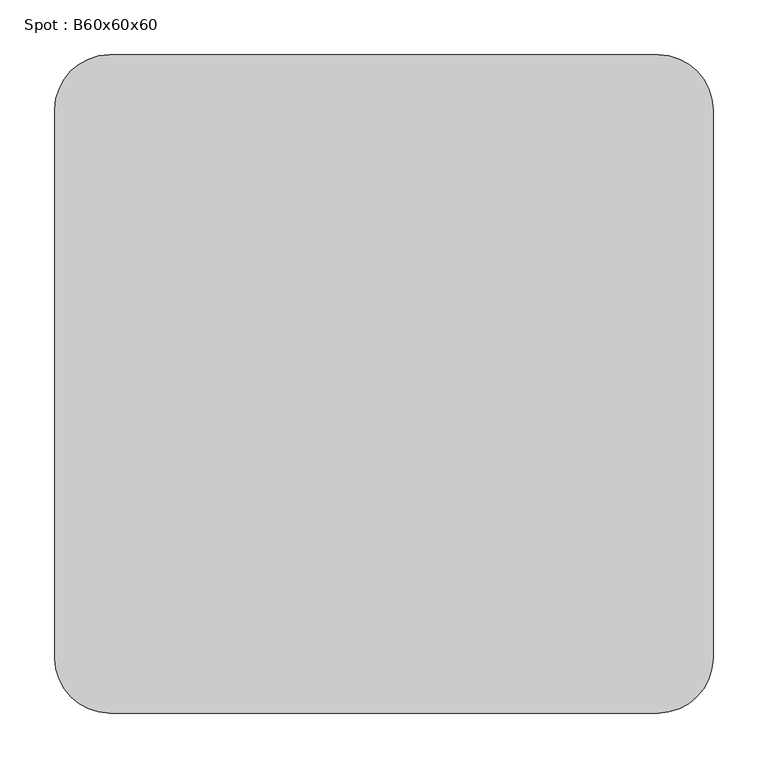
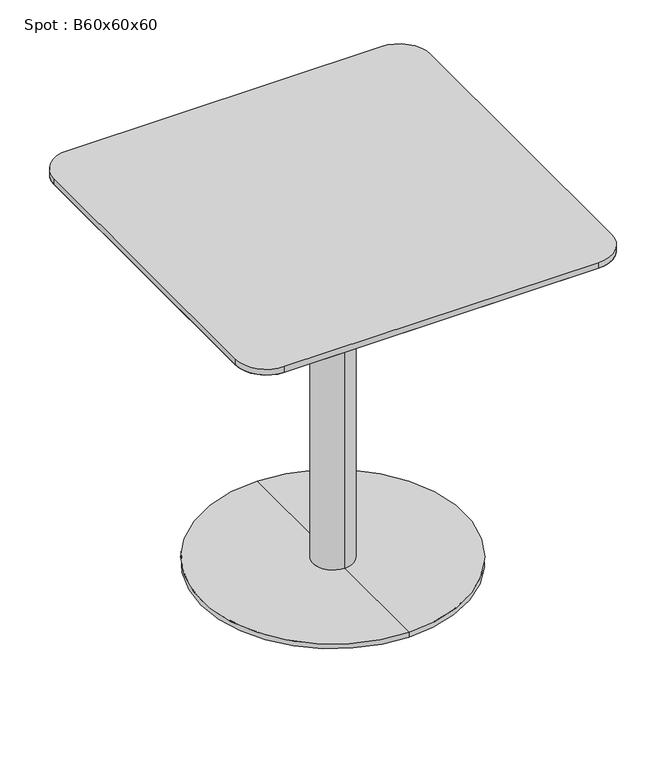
"""IFC4 building model written with IfcOpenShell, lengths in millimetres: furniture geometry, Spot : B60x60x60."""

from ifc_helpers import new_model, si_unit, point, frame, frame_2d, origin, place, context, project, spatial, polyline, circle_curve, trimmed, segment, composite_curve, outline, extrude, source, transform, mapped, element, save
from ifc_brep_helpers import plane_surface, cylinder_surface, revolved_surface, advanced_brep


def spot_b60x60x60_533987e2(model_context):
    return source(origin(), model_context, "Body", "SolidModel", [
        advanced_brep(
        [(-250.0, -250.0, 578.0), (-250.0, 250.0, 578.0), (250.0, 250.0, 578.0), (250.0, -250.0, 578.0), (-300.0, -250.0, 590.0), (-250.0, -300.0, 590.0), (250.0, -300.0, 590.0), (300.0, -250.0, 590.0), (300.0, 250.0, 590.0), (250.0, 300.0, 590.0), (-250.0, 300.0, 590.0), (-300.0, 250.0, 590.0)],
        [
            (0, 1),
            (1, 2),
            (2, 3),
            (3, 0),
            (4, 5, circle_curve(frame((-250.0, -250.0, 590.0), z_axis=(0.0, 0.0, 1.0), x_axis=(0.0, -1.0, 0.0)), 50.0)),
            (5, 6),
            (6, 7, circle_curve(frame((250.0, -250.0, 590.0), z_axis=(0.0, 0.0, 1.0), x_axis=(1.0, 0.0, 0.0)), 50.0)),
            (7, 8),
            (8, 9, circle_curve(frame((250.0, 250.0, 590.0), z_axis=(0.0, 0.0, 1.0), x_axis=(0.0, 1.0, 0.0)), 50.0)),
            (9, 10),
            (10, 11, circle_curve(frame((-250.0, 250.0, 590.0), z_axis=(0.0, 0.0, 1.0), x_axis=(-1.0, 0.0, 0.0)), 50.0)),
            (11, 4),
            (4, 0),
            (0, 5),
            (3, 6),
            (3, 7),
            (2, 8),
            (2, 9),
            (1, 10),
            (1, 11),
        ],
        [
            plane_surface(frame((0.0, 0.0, 578.0), z_axis=(0.0, 0.0, -1.0), x_axis=(-1.0, 0.0, 0.0))),
            plane_surface(frame((0.0, 0.0, 590.0), z_axis=(0.0, 0.0, 1.0), x_axis=(-1.0, 0.0, 0.0))),
            revolved_surface(polyline([(-250.0, -250.0, 578.0), (-250.0, -300.0, 590.0)]), (-250.0, -250.0, 578.0), (0.0, 0.0, 1.0)),
            plane_surface(frame((0.0, -300.0, 590.0), z_axis=(0.0, -0.23337295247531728, -0.9723873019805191), x_axis=(-1.0, 0.0, 0.0))),
            revolved_surface(polyline([(250.0, -250.0, 578.0), (300.0, -250.0, 590.0)]), (250.0, -250.0, 578.0), (0.0, 0.0, 1.0)),
            plane_surface(frame((300.0, 0.0, 590.0), z_axis=(0.23337295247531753, 0.0, -0.9723873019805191), x_axis=(0.0, -1.0, 0.0))),
            revolved_surface(polyline([(250.0, 250.0, 578.0), (250.0, 300.0, 590.0)]), (250.0, 250.0, 578.0), (0.0, 0.0, 1.0)),
            plane_surface(frame((0.0, 300.0, 590.0), z_axis=(0.0, 0.23337295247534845, -0.9723873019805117), x_axis=(1.0, 0.0, 0.0))),
            revolved_surface(polyline([(-250.0, 250.0, 578.0), (-300.0, 250.0, 590.0)]), (-250.0, 250.0, 578.0), (0.0, 0.0, 1.0)),
            plane_surface(frame((-300.0, 0.0, 590.0), z_axis=(-0.233372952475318, 0.0, -0.972387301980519), x_axis=(0.0, 1.0, 0.0))),
        ],
        [
            (0, [[1, 2, 3, 4]]),
            (1, [[5, 6, 7, 8, 9, 10, 11, 12]]),
            (2, [[-5, 13, 14]]),
            (3, [[-6, -14, -4, 15]]),
            (4, [[-7, -15, 16]]),
            (5, [[-8, -16, -3, 17]]),
            (6, [[-9, -17, 18]]),
            (7, [[-10, -18, -2, 19]]),
            (8, [[-11, -19, 20]]),
            (9, [[-12, -20, -1, -13]]),
        ],
    ),
        extrude(outline(composite_curve([segment(trimmed(circle_curve(frame_2d((250.0, 250.0)), 50.0), [point((250.0, 300.0))], [point((300.0, 250.0))], False, "CARTESIAN"), True, "CONTINUOUS"), segment(polyline([(300.0, 250.0), (300.0, -250.0)]), True, "CONTINUOUS"), segment(trimmed(circle_curve(frame_2d((250.0, -250.0)), 50.0), [point((300.0, -250.0))], [point((250.0, -300.0))], False, "CARTESIAN"), True, "CONTINUOUS"), segment(polyline([(250.0, -300.0), (-250.0, -300.0)]), True, "CONTINUOUS"), segment(trimmed(circle_curve(frame_2d((-250.0, -250.0)), 50.0), [point((-250.0, -300.0))], [point((-300.0, -250.0))], False, "CARTESIAN"), True, "CONTINUOUS"), segment(polyline([(-300.0, -250.0), (-300.0, 250.0)]), True, "CONTINUOUS"), segment(trimmed(circle_curve(frame_2d((-250.0, 250.0)), 50.0), [point((-300.0, 250.0))], [point((-250.0, 300.0))], False, "CARTESIAN"), True, "CONTINUOUS"), segment(polyline([(-250.0, 300.0), (250.0, 300.0)]), True, "CONTINUOUS")], self_intersect=False)), frame((0.0, 0.0, 590.0), z_axis=(0.0, 0.0, 1.0), x_axis=(1.0, 0.0, 0.0)), (0.0, 0.0, 1.0), 10.0),
        advanced_brep(
        [(0.0, 32.0, 10.0), (0.0, -32.0, 10.0), (0.0, -32.0, 547.406916), (0.0, 32.0, 547.406916), (0.0, 210.0, 10.0), (0.0, -210.0, 10.0), (0.0, 210.0, 2.0), (0.0, -210.0, 2.0), (0.0, 0.0, 2.0), (0.0, 150.0, 578.0), (0.0, -150.0, 578.0), (0.0, 0.0, 578.0), (0.0, 150.0, 566.7213673), (0.0, -150.0, 566.7213673)],
        [
            (0, 1, circle_curve(frame((0.0, 0.0, 10.0), z_axis=(0.0, 0.0, 1.0), x_axis=(0.0, -1.0, 0.0)), 32.0)),
            (1, 2),
            (2, 3, circle_curve(frame((0.0, 0.0, 547.406916), z_axis=(0.0, 0.0, -1.0), x_axis=(0.0, -1.0, 0.0)), 32.0)),
            (3, 0),
            (1, 0, circle_curve(frame((0.0, 0.0, 10.0), z_axis=(0.0, 0.0, 1.0), x_axis=(0.0, -1.0, 0.0)), 32.0)),
            (3, 2, circle_curve(frame((0.0, 0.0, 547.406916), z_axis=(0.0, 0.0, -1.0), x_axis=(0.0, -1.0, 0.0)), 32.0)),
            (4, 5, circle_curve(frame((0.0, 0.0, 10.0), z_axis=(0.0, 0.0, 1.0), x_axis=(0.0, -1.0, 0.0)), 210.0)),
            (5, 1),
            (0, 4),
            (5, 4, circle_curve(frame((0.0, 0.0, 10.0), z_axis=(0.0, 0.0, 1.0), x_axis=(0.0, -1.0, 0.0)), 210.0)),
            (6, 7, circle_curve(frame((0.0, 0.0, 2.0), z_axis=(0.0, 0.0, 1.0), x_axis=(0.0, -1.0, 0.0)), 210.0)),
            (7, 5),
            (4, 6),
            (7, 6, circle_curve(frame((0.0, 0.0, 2.0), z_axis=(0.0, 0.0, 1.0), x_axis=(0.0, -1.0, 0.0)), 210.0)),
            (8, 7),
            (6, 8),
            (9, 10, circle_curve(frame((0.0, 0.0, 578.0), z_axis=(0.0, 0.0, 1.0), x_axis=(0.0, -1.0, 0.0)), 150.0)),
            (10, 11),
            (11, 9),
            (10, 9, circle_curve(frame((0.0, 0.0, 578.0), z_axis=(0.0, 0.0, 1.0), x_axis=(0.0, -1.0, 0.0)), 150.0)),
            (12, 13, circle_curve(frame((0.0, 0.0, 566.7213673), z_axis=(0.0, 0.0, 1.0), x_axis=(0.0, -1.0, 0.0)), 150.0)),
            (13, 10),
            (9, 12),
            (13, 12, circle_curve(frame((0.0, 0.0, 566.7213673), z_axis=(0.0, 0.0, 1.0), x_axis=(0.0, -1.0, 0.0)), 150.0)),
            (2, 13),
            (12, 3),
        ],
        [
            cylinder_surface(frame((0.0, 0.0, 940.0), z_axis=(0.0, 0.0, -1.0), x_axis=(0.0, -1.0, 0.0)), 32.0),
            plane_surface(frame((0.0, 0.0, 10.0), z_axis=(0.0, 0.0, 1.0), x_axis=(0.0, -1.0, 0.0))),
            cylinder_surface(frame((0.0, 0.0, 940.0), z_axis=(0.0, 0.0, -1.0), x_axis=(0.0, -1.0, 0.0)), 210.0),
            plane_surface(frame((0.0, 0.0, 2.0), z_axis=(0.0, 0.0, -1.0), x_axis=(0.0, -1.0, 0.0))),
            plane_surface(frame((0.0, 0.0, 578.0), z_axis=(0.0, 0.0, 1.0), x_axis=(0.0, -1.0, 0.0))),
            cylinder_surface(frame((0.0, 0.0, 940.0), z_axis=(0.0, 0.0, -1.0), x_axis=(0.0, -1.0, 0.0)), 150.0),
            revolved_surface(polyline([(0.0, -150.0, 566.7213673), (0.0, -32.0, 547.406916)]), (0.0, 0.0, 940.0), (0.0, 0.0, -1.0)),
        ],
        [
            (0, [[1, 2, 3, 4]]),
            (0, [[5, -4, 6, -2]]),
            (1, [[7, 8, -1, 9]]),
            (1, [[10, -9, -5, -8]]),
            (2, [[11, 12, -7, 13]]),
            (2, [[14, -13, -10, -12]]),
            (3, [[15, -11, 16]]),
            (3, [[-16, -14, -15]]),
            (4, [[17, 18, 19]]),
            (4, [[20, -19, -18]]),
            (5, [[21, 22, -17, 23]]),
            (5, [[24, -23, -20, -22]]),
            (6, [[-3, 25, -21, 26]]),
            (6, [[-6, -26, -24, -25]]),
        ],
    ),
    ])


if __name__ == "__main__":
    model = new_model("IFC4")
    model_context = context("Model", 3, world=origin())
    ifc_project = project(units=[si_unit("LENGTHUNIT", "METRE", prefix="MILLI")], contexts=[model_context])
    site = spatial("IfcSite", under=ifc_project)
    building = spatial("IfcBuilding", under=site)
    placement = place(None, origin())
    spot_b60x60x60_shape = spot_b60x60x60_533987e2(model_context)
    element("IfcFurniture", 1, ObjectType="Spot : B60x60x60", at=placement, inside=building, context=model_context, shape_type="MappedRepresentation", body=[
        mapped(spot_b60x60x60_shape, transform((0.0, 0.0, 0.0), x_axis=(1.0, 0.0, 0.0), y_axis=(0.0, 1.0, 0.0), z_axis=(0.0, 0.0, 1.0))),
    ])
    save(model, "model.ifc")
